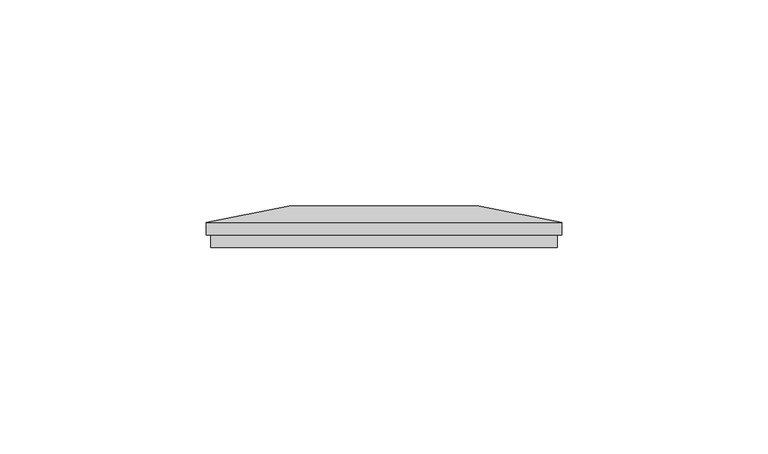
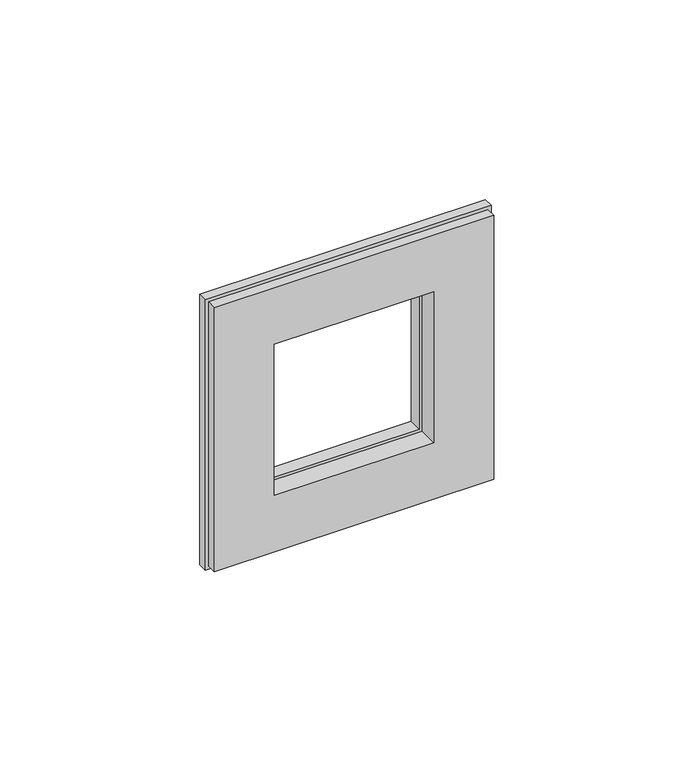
"""IFC4 building model written with IfcOpenShell, lengths in millimetres: proxy geometry, IEK_Skandy_Рамка : x1_SK-F01B."""

from ifc_helpers import new_model, si_unit, origin, place, context, project, spatial, faceted_brep, source, transform, mapped, element, save


def electrical_fixtures_62e152b0(model_context):
    return source(origin(), model_context, "Body", "Brep", [
        faceted_brep([(-42.0, 0.0, 42.0), (-42.0, 0.0, -42.0), (42.0, 0.0, -42.0), (42.0, 0.0, 42.0), (-24.0, 0.0, 24.0), (24.0, 0.0, 24.0), (24.0, 0.0, -24.0), (-24.0, 0.0, -24.0), (-42.0, 3.0, 42.0), (-42.0, 3.0, -42.0), (42.0, 3.0, -42.0), (42.0, 3.0, 42.0), (-24.0, 6.0, 24.0), (24.0, 6.0, 24.0), (24.0, 6.0, -24.0), (-24.0, 6.0, -24.0), (-23.0, 6.0, 23.0), (23.0, 6.0, 23.0), (23.0, 6.0, -23.0), (-23.0, 6.0, -23.0), (43.0, 6.0, 43.0), (23.0, 10.0, 23.0), (-23.0, 10.0, 23.0), (-43.0, 6.0, 43.0), (43.0, 6.0, -43.0), (23.0, 10.0, -23.0), (-43.0, 6.0, -43.0), (-23.0, 10.0, -23.0), (-43.0, 3.0, 43.0), (-43.0, 3.0, -43.0), (43.0, 3.0, -43.0), (43.0, 3.0, 43.0)], [[[0, 1, 2, 3], [4, 5, 6, 7]], [[1, 0, 8, 9]], [[2, 1, 9, 10]], [[3, 2, 10, 11]], [[0, 3, 11, 8]], [[5, 4, 12, 13]], [[6, 5, 13, 14]], [[7, 6, 14, 15]], [[4, 7, 15, 12]], [[13, 12, 15, 14], [16, 17, 18, 19]], [[20, 21, 22, 23]], [[21, 20, 24, 25]], [[25, 24, 26, 27]], [[23, 22, 27, 26]], [[28, 29, 30, 31], [9, 8, 11, 10]], [[29, 28, 23, 26]], [[30, 29, 26, 24]], [[31, 30, 24, 20]], [[28, 31, 20, 23]], [[16, 22, 21, 17]], [[17, 21, 25, 18]], [[18, 25, 27, 19]], [[22, 16, 19, 27]]]),
    ])


if __name__ == "__main__":
    model = new_model("IFC4")
    model_context = context("Model", 3, world=origin())
    ifc_project = project(units=[si_unit("LENGTHUNIT", "METRE", prefix="MILLI")], contexts=[model_context])
    site = spatial("IfcSite", under=ifc_project)
    building = spatial("IfcBuilding", under=site)
    placement = place(None, origin())
    electrical_fixtures_shape = electrical_fixtures_62e152b0(model_context)
    element("IfcBuildingElementProxy", 1, Name="IEK_Skandy_Рамка : x1_SK-F01B", ObjectType="IEK_Skandy_Рамка : x1_SK-F01B", at=placement, inside=building, context=model_context, shape_type="MappedRepresentation", body=[
        mapped(electrical_fixtures_shape, transform((0.0, 0.0, 0.0), x_axis=(1.0, 0.0, 0.0), y_axis=(0.0, 1.0, 0.0), z_axis=(0.0, 0.0, 1.0))),
    ])
    save(model, "model.ifc")
